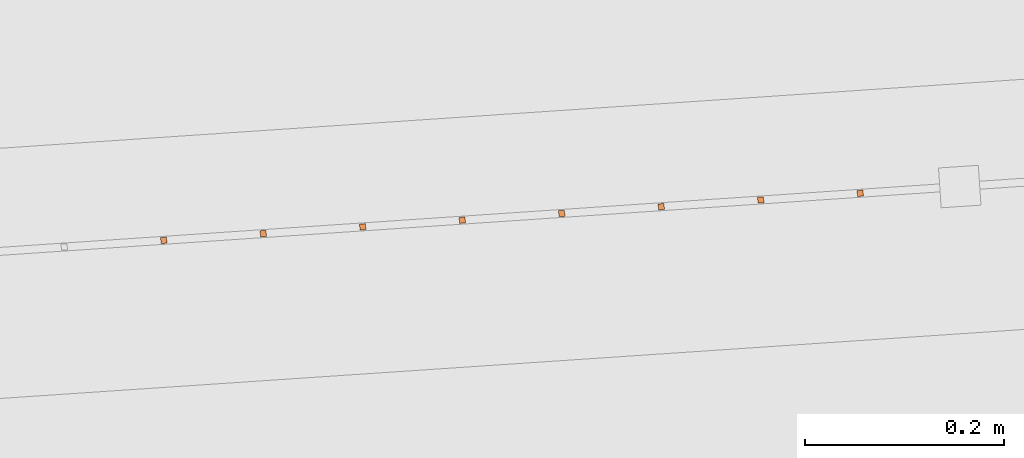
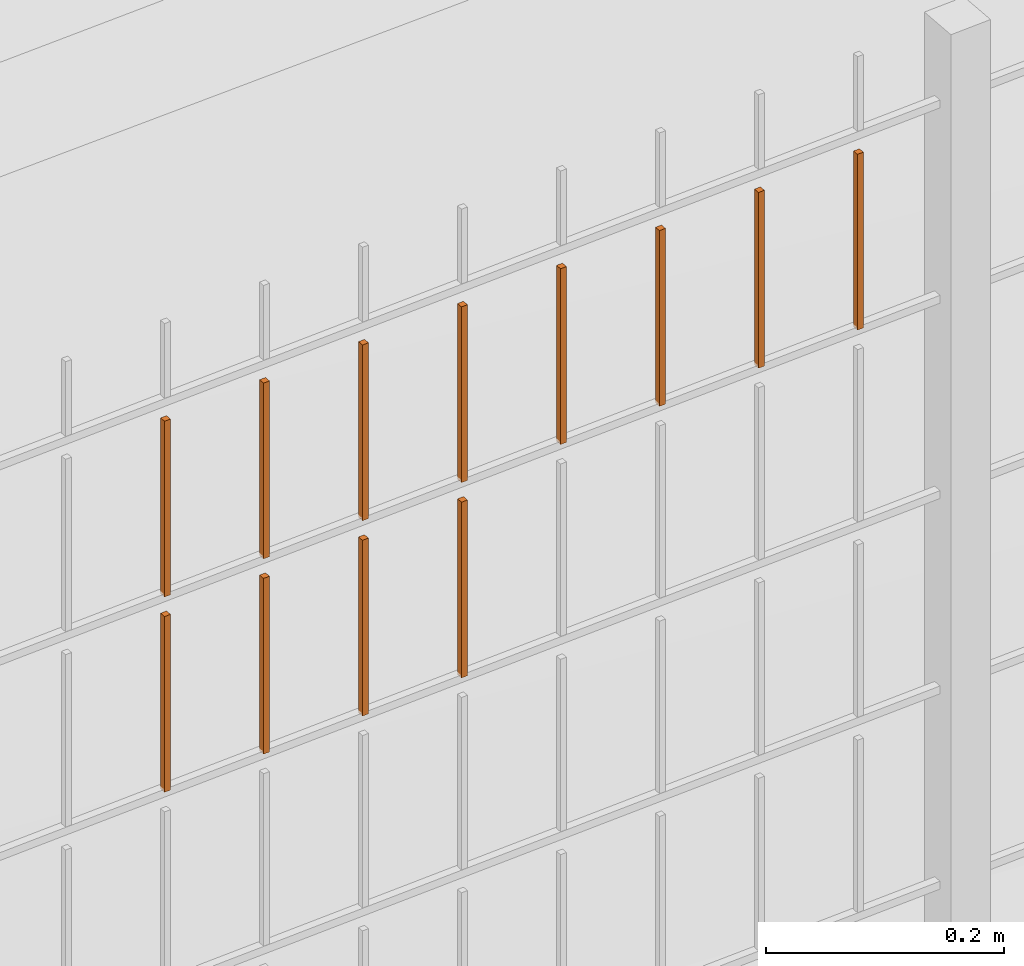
# One storey, part 379 of 1809: 12 proxies, 1 element without a shape of its own.
"""IFC2X3 building model written with IfcOpenShell, lengths in millimetres."""

from ifc_helpers import new_model, entity, si_unit, converted_unit, derived_unit, money_unit, direction, frame, origin_with_axes, place, context, subcontext, project, spatial, faceted_brep, source, transform, mapped, material, type_object, element, aggregate, save


model = new_model("IFC2X3")

# Units and contexts
model_context = context("Model", 3, precision=0.01, world=origin_with_axes(), true_north=direction((0.0, 1.0)))
body_context = subcontext(model_context, "Body", "Model", "MODEL_VIEW")
ifc_project = project(units=[si_unit("LENGTHUNIT", "METRE", prefix="MILLI"), si_unit("AREAUNIT", "SQUARE_METRE"), si_unit("VOLUMEUNIT", "CUBIC_METRE"), converted_unit("PLANEANGLEUNIT", "DEGREE", entity("IfcPlaneAngleMeasure", 0.0174532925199), si_unit("PLANEANGLEUNIT", "RADIAN"), dimensions=[0, 0, 0, 0, 0, 0, 0]), si_unit("SOLIDANGLEUNIT", "STERADIAN"), money_unit("EUR"), converted_unit("TIMEUNIT", "Year", entity("IfcTimeMeasure", 31556926.0), si_unit("TIMEUNIT", "SECOND"), dimensions=[0, 0, 1, 0, 0, 0, 0]), si_unit("MASSUNIT", "GRAM", prefix="KILO"), si_unit("THERMODYNAMICTEMPERATUREUNIT", "DEGREE_CELSIUS"), si_unit("LUMINOUSINTENSITYUNIT", "LUMEN"), si_unit("ENERGYUNIT", "JOULE", prefix="MEGA"), derived_unit("THERMALCONDUCTANCEUNIT", [(si_unit("POWERUNIT", "WATT"), 1), (si_unit("LENGTHUNIT", "METRE"), -1), (si_unit("THERMODYNAMICTEMPERATUREUNIT", "KELVIN"), -1)]), derived_unit("SPECIFICHEATCAPACITYUNIT", [(si_unit("ENERGYUNIT", "JOULE"), 1), (si_unit("MASSUNIT", "GRAM", prefix="KILO"), -1), (si_unit("THERMODYNAMICTEMPERATUREUNIT", "KELVIN"), -1)]), derived_unit("MASSDENSITYUNIT", [(si_unit("MASSUNIT", "GRAM", prefix="KILO"), 1), (si_unit("VOLUMEUNIT", "CUBIC_METRE"), -1)])], contexts=[model_context])

# Site, building, storey
site_placement = place(None, origin_with_axes())
site = spatial("IfcSite", under=ifc_project, at=site_placement, Name="Politse- ja Piirivalveameti ning Päästeameti ühishoone", CompositionType="ELEMENT")
building_placement = place(site_placement, origin_with_axes())
building = spatial("IfcBuilding", under=site, at=building_placement, Name="Politse- ja Piirivalveameti ning Päästeameti ühishoone", CompositionType="ELEMENT")
storey_placement = place(building_placement, origin_with_axes())
storey = spatial("IfcBuildingStorey", under=building, at=storey_placement, Name="Esimene korrus", CompositionType="ELEMENT", Elevation=0.0)

# Proxies
building_element_proxy_type_1 = type_object("IfcBuildingElementProxyType", Name="Railing Type", PredefinedType="NOTDEFINED")
proxy_1_placement = place(storey_placement, frame((89252.001212, -29183.4766571, 203.661247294), z_axis=(0.0, 0.0, 1.0), x_axis=(1.0, 0.0, 0.0)))
proxy_1 = element("IfcBuildingElementProxy", 1, at=proxy_1_placement, inside=storey, type_object=building_element_proxy_type_1, Name="PIIRDEAED")
ifc_material = material(Name="ET-03_Raud")
building_element_proxy_type_2 = type_object("IfcBuildingElementProxyType", Name="IfcBuildingElementProxy", PredefinedType="NOTDEFINED")
shared_shape_1 = source(origin_with_axes(), body_context, "Body", "Brep", [
    faceted_brep([(3.0, 3.0, -0.000752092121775), (-3.0, 3.0, -0.000752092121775), (-3.0, 3.0, 179.99926046), (3.0, 3.0, 179.99926046), (3.0, -3.0, 0.000752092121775), (-3.0, -3.0, 0.000752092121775), (-3.0, -3.0, 180.000764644), (3.0, -3.0, 180.000764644)], [[[0, 1, 2, 3]], [[0, 4, 5, 1]], [[1, 5, 6, 2]], [[3, 2, 6, 7]], [[4, 0, 3, 7]], [[5, 4, 7, 6]]]),
])
proxy_2_placement = place(proxy_1_placement, frame((-17885.9321864, -18505.9019817, 1822.74021191), z_axis=(0.0, 0.0, 1.0), x_axis=(1.0, 0.0, 0.0)))
proxy_2 = element("IfcBuildingElementProxy", 2, at=proxy_2_placement, type_object=building_element_proxy_type_2, material=ifc_material, Name="BALUSTER - 001", context=body_context, shape_type="MappedRepresentation", body=[
    mapped(shared_shape_1, transform((0.0, 0.0, 0.0), x_axis=(-0.0673926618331, 0.997726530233, 0.0), y_axis=(-0.997726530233, -0.0673926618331, 0.0), z_axis=(0.0, 0.0, 1.0))),
])
shared_shape_2 = source(origin_with_axes(), body_context, "Body", "Brep", [
    faceted_brep([(3.0, 3.0, -0.000752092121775), (-3.0, 3.0, -0.000752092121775), (-3.0, 3.0, 179.99926046), (3.0, 3.0, 179.99926046), (3.0, -3.0, 0.000752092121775), (-3.0, -3.0, 0.000752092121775), (-3.0, -3.0, 180.000764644), (3.0, -3.0, 180.000764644)], [[[0, 1, 2, 3]], [[0, 4, 5, 1]], [[1, 5, 6, 2]], [[3, 2, 6, 7]], [[4, 0, 3, 7]], [[5, 4, 7, 6]]]),
])
proxy_3_placement = place(proxy_1_placement, frame((-17985.7048394, -18512.6412479, 1822.71514218), z_axis=(0.0, 0.0, 1.0), x_axis=(1.0, 0.0, 0.0)))
proxy_3 = element("IfcBuildingElementProxy", 3, at=proxy_3_placement, type_object=building_element_proxy_type_2, material=ifc_material, Name="BALUSTER - 001", context=body_context, shape_type="MappedRepresentation", body=[
    mapped(shared_shape_2, transform((0.0, 0.0, 0.0), x_axis=(-0.0673926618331, 0.997726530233, 0.0), y_axis=(-0.997726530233, -0.0673926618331, 0.0), z_axis=(0.0, 0.0, 1.0))),
])
shared_shape_3 = source(origin_with_axes(), body_context, "Body", "Brep", [
    faceted_brep([(3.0, 3.0, -0.000752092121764), (-3.0, 3.0, -0.000752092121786), (-3.0, 3.0, 179.99926046), (3.0, 3.0, 179.99926046), (3.0, -3.0, 0.000752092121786), (-3.0, -3.0, 0.000752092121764), (-3.0, -3.0, 180.000764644), (3.0, -3.0, 180.000764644)], [[[0, 1, 2, 3]], [[0, 4, 5, 1]], [[1, 5, 6, 2]], [[3, 2, 6, 7]], [[4, 0, 3, 7]], [[5, 4, 7, 6]]]),
])
proxy_4_placement = place(proxy_1_placement, frame((-18085.4774924, -18519.3805141, 1822.69007244), z_axis=(0.0, 0.0, 1.0), x_axis=(1.0, 0.0, 0.0)))
proxy_4 = element("IfcBuildingElementProxy", 4, at=proxy_4_placement, type_object=building_element_proxy_type_2, material=ifc_material, Name="BALUSTER - 001", context=body_context, shape_type="MappedRepresentation", body=[
    mapped(shared_shape_3, transform((0.0, 0.0, 0.0), x_axis=(-0.0673926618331, 0.997726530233, 0.0), y_axis=(-0.997726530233, -0.0673926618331, 0.0), z_axis=(0.0, 0.0, 1.0))),
])
shared_shape_4 = source(origin_with_axes(), body_context, "Body", "Brep", [
    faceted_brep([(3.0, 3.0, -0.000752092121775), (-3.0, 3.0, -0.000752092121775), (-3.0, 3.0, 179.99926046), (3.0, 3.0, 179.99926046), (3.0, -3.0, 0.000752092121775), (-3.0, -3.0, 0.000752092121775), (-3.0, -3.0, 180.000764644), (3.0, -3.0, 180.000764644)], [[[0, 1, 2, 3]], [[0, 4, 5, 1]], [[1, 5, 6, 2]], [[3, 2, 6, 7]], [[4, 0, 3, 7]], [[5, 4, 7, 6]]]),
])
proxy_5_placement = place(proxy_1_placement, frame((-17985.7048394, -18512.6412479, 1622.71514218), z_axis=(0.0, 0.0, 1.0), x_axis=(1.0, 0.0, 0.0)))
proxy_5 = element("IfcBuildingElementProxy", 5, at=proxy_5_placement, type_object=building_element_proxy_type_2, material=ifc_material, Name="BALUSTER - 001", context=body_context, shape_type="MappedRepresentation", body=[
    mapped(shared_shape_4, transform((0.0, 0.0, 0.0), x_axis=(-0.0673926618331, 0.997726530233, 0.0), y_axis=(-0.997726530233, -0.0673926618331, 0.0), z_axis=(0.0, 0.0, 1.0))),
])
shared_shape_5 = source(origin_with_axes(), body_context, "Body", "Brep", [
    faceted_brep([(3.0, 3.0, -0.000752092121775), (-3.0, 3.0, -0.000752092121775), (-3.0, 3.0, 179.99926046), (3.0, 3.0, 179.99926046), (3.0, -3.0, 0.000752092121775), (-3.0, -3.0, 0.000752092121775), (-3.0, -3.0, 180.000764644), (3.0, -3.0, 180.000764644)], [[[0, 1, 2, 3]], [[0, 4, 5, 1]], [[1, 5, 6, 2]], [[3, 2, 6, 7]], [[4, 0, 3, 7]], [[5, 4, 7, 6]]]),
])
proxy_6_placement = place(proxy_1_placement, frame((-17786.1595333, -18499.1627155, 1822.76528165), z_axis=(0.0, 0.0, 1.0), x_axis=(1.0, 0.0, 0.0)))
proxy_6 = element("IfcBuildingElementProxy", 6, at=proxy_6_placement, type_object=building_element_proxy_type_2, material=ifc_material, Name="BALUSTER - 001", context=body_context, shape_type="MappedRepresentation", body=[
    mapped(shared_shape_5, transform((0.0, 0.0, 0.0), x_axis=(-0.0673926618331, 0.997726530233, 0.0), y_axis=(-0.997726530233, -0.0673926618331, 0.0), z_axis=(0.0, 0.0, 1.0))),
])
shared_shape_6 = source(origin_with_axes(), body_context, "Body", "Brep", [
    faceted_brep([(3.0, 3.0, -0.000752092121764), (-3.0, 3.0, -0.000752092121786), (-3.0, 3.0, 179.99926046), (3.0, 3.0, 179.99926046), (3.0, -3.0, 0.000752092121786), (-3.0, -3.0, 0.000752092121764), (-3.0, -3.0, 180.000764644), (3.0, -3.0, 180.000764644)], [[[0, 1, 2, 3]], [[0, 4, 5, 1]], [[1, 5, 6, 2]], [[3, 2, 6, 7]], [[4, 0, 3, 7]], [[5, 4, 7, 6]]]),
])
proxy_7_placement = place(proxy_1_placement, frame((-17586.6142273, -18485.6841832, 1822.81542113), z_axis=(0.0, 0.0, 1.0), x_axis=(1.0, 0.0, 0.0)))
proxy_7 = element("IfcBuildingElementProxy", 7, at=proxy_7_placement, type_object=building_element_proxy_type_2, material=ifc_material, Name="BALUSTER - 001", context=body_context, shape_type="MappedRepresentation", body=[
    mapped(shared_shape_6, transform((0.0, 0.0, 0.0), x_axis=(-0.0673926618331, 0.997726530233, 0.0), y_axis=(-0.997726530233, -0.0673926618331, 0.0), z_axis=(0.0, 0.0, 1.0))),
])
shared_shape_7 = source(origin_with_axes(), body_context, "Body", "Brep", [
    faceted_brep([(3.0, 3.0, -0.000752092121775), (-3.0, 3.0, -0.000752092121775), (-3.0, 3.0, 179.99926046), (3.0, 3.0, 179.99926046), (3.0, -3.0, 0.000752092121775), (-3.0, -3.0, 0.000752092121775), (-3.0, -3.0, 180.000764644), (3.0, -3.0, 180.000764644)], [[[0, 1, 2, 3]], [[0, 4, 5, 1]], [[1, 5, 6, 2]], [[3, 2, 6, 7]], [[4, 0, 3, 7]], [[5, 4, 7, 6]]]),
])
proxy_8_placement = place(proxy_1_placement, frame((-17885.9321864, -18505.9019817, 1622.74021191), z_axis=(0.0, 0.0, 1.0), x_axis=(1.0, 0.0, 0.0)))
proxy_8 = element("IfcBuildingElementProxy", 8, at=proxy_8_placement, type_object=building_element_proxy_type_2, material=ifc_material, Name="BALUSTER - 001", context=body_context, shape_type="MappedRepresentation", body=[
    mapped(shared_shape_7, transform((0.0, 0.0, 0.0), x_axis=(-0.0673926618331, 0.997726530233, 0.0), y_axis=(-0.997726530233, -0.0673926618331, 0.0), z_axis=(0.0, 0.0, 1.0))),
])
shared_shape_8 = source(origin_with_axes(), body_context, "Body", "Brep", [
    faceted_brep([(3.0, 3.0, -0.000752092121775), (-3.0, 3.0, -0.000752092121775), (-3.0, 3.0, 179.99926046), (3.0, 3.0, 179.99926046), (3.0, -3.0, 0.000752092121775), (-3.0, -3.0, 0.000752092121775), (-3.0, -3.0, 180.000764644), (3.0, -3.0, 180.000764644)], [[[0, 1, 2, 3]], [[0, 4, 5, 1]], [[1, 5, 6, 2]], [[3, 2, 6, 7]], [[4, 0, 3, 7]], [[5, 4, 7, 6]]]),
])
proxy_9_placement = place(proxy_1_placement, frame((-17387.0689212, -18472.2056508, 1822.8655606), z_axis=(0.0, 0.0, 1.0), x_axis=(1.0, 0.0, 0.0)))
proxy_9 = element("IfcBuildingElementProxy", 9, at=proxy_9_placement, type_object=building_element_proxy_type_2, material=ifc_material, Name="BALUSTER - 001", context=body_context, shape_type="MappedRepresentation", body=[
    mapped(shared_shape_8, transform((0.0, 0.0, 0.0), x_axis=(-0.0673926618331, 0.997726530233, 0.0), y_axis=(-0.997726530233, -0.0673926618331, 0.0), z_axis=(0.0, 0.0, 1.0))),
])
shared_shape_9 = source(origin_with_axes(), body_context, "Body", "Brep", [
    faceted_brep([(3.0, 3.0, -0.000752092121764), (-3.0, 3.0, -0.000752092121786), (-3.0, 3.0, 179.99926046), (3.0, 3.0, 179.99926046), (3.0, -3.0, 0.000752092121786), (-3.0, -3.0, 0.000752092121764), (-3.0, -3.0, 180.000764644), (3.0, -3.0, 180.000764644)], [[[0, 1, 2, 3]], [[0, 4, 5, 1]], [[1, 5, 6, 2]], [[3, 2, 6, 7]], [[4, 0, 3, 7]], [[5, 4, 7, 6]]]),
])
proxy_10_placement = place(proxy_1_placement, frame((-17686.3868803, -18492.4234494, 1822.79035139), z_axis=(0.0, 0.0, 1.0), x_axis=(1.0, 0.0, 0.0)))
proxy_10 = element("IfcBuildingElementProxy", 10, at=proxy_10_placement, type_object=building_element_proxy_type_2, material=ifc_material, Name="BALUSTER - 001", context=body_context, shape_type="MappedRepresentation", body=[
    mapped(shared_shape_9, transform((0.0, 0.0, 0.0), x_axis=(-0.0673926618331, 0.997726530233, 0.0), y_axis=(-0.997726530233, -0.0673926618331, 0.0), z_axis=(0.0, 0.0, 1.0))),
])
shared_shape_10 = source(origin_with_axes(), body_context, "Body", "Brep", [
    faceted_brep([(3.0, 3.0, -0.000752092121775), (-3.0, 3.0, -0.000752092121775), (-3.0, 3.0, 179.99926046), (3.0, 3.0, 179.99926046), (3.0, -3.0, 0.000752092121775), (-3.0, -3.0, 0.000752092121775), (-3.0, -3.0, 180.000764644), (3.0, -3.0, 180.000764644)], [[[0, 1, 2, 3]], [[0, 4, 5, 1]], [[1, 5, 6, 2]], [[3, 2, 6, 7]], [[4, 0, 3, 7]], [[5, 4, 7, 6]]]),
])
proxy_11_placement = place(proxy_1_placement, frame((-17786.1595333, -18499.1627155, 1622.76528165), z_axis=(0.0, 0.0, 1.0), x_axis=(1.0, 0.0, 0.0)))
proxy_11 = element("IfcBuildingElementProxy", 11, at=proxy_11_placement, type_object=building_element_proxy_type_2, material=ifc_material, Name="BALUSTER - 001", context=body_context, shape_type="MappedRepresentation", body=[
    mapped(shared_shape_10, transform((0.0, 0.0, 0.0), x_axis=(-0.0673926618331, 0.997726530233, 0.0), y_axis=(-0.997726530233, -0.0673926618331, 0.0), z_axis=(0.0, 0.0, 1.0))),
])
shared_shape_11 = source(origin_with_axes(), body_context, "Body", "Brep", [
    faceted_brep([(3.0, 3.0, -0.000752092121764), (-3.0, 3.0, -0.000752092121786), (-3.0, 3.0, 179.99926046), (3.0, 3.0, 179.99926046), (3.0, -3.0, 0.000752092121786), (-3.0, -3.0, 0.000752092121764), (-3.0, -3.0, 180.000764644), (3.0, -3.0, 180.000764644)], [[[0, 1, 2, 3]], [[0, 4, 5, 1]], [[1, 5, 6, 2]], [[3, 2, 6, 7]], [[4, 0, 3, 7]], [[5, 4, 7, 6]]]),
])
proxy_12_placement = place(proxy_1_placement, frame((-18085.4774924, -18519.3805141, 1622.69007244), z_axis=(0.0, 0.0, 1.0), x_axis=(1.0, 0.0, 0.0)))
proxy_12 = element("IfcBuildingElementProxy", 12, at=proxy_12_placement, type_object=building_element_proxy_type_2, material=ifc_material, Name="BALUSTER - 001", context=body_context, shape_type="MappedRepresentation", body=[
    mapped(shared_shape_11, transform((0.0, 0.0, 0.0), x_axis=(-0.0673926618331, 0.997726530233, 0.0), y_axis=(-0.997726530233, -0.0673926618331, 0.0), z_axis=(0.0, 0.0, 1.0))),
])
shared_shape_12 = source(origin_with_axes(), body_context, "Body", "Brep", [
    faceted_brep([(3.0, 3.0, -0.000752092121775), (-3.0, 3.0, -0.000752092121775), (-3.0, 3.0, 179.99926046), (3.0, 3.0, 179.99926046), (3.0, -3.0, 0.000752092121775), (-3.0, -3.0, 0.000752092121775), (-3.0, -3.0, 180.000764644), (3.0, -3.0, 180.000764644)], [[[0, 1, 2, 3]], [[0, 4, 5, 1]], [[1, 5, 6, 2]], [[3, 2, 6, 7]], [[4, 0, 3, 7]], [[5, 4, 7, 6]]]),
])
proxy_13_placement = place(proxy_1_placement, frame((-17486.8415743, -18478.944917, 1822.84049086), z_axis=(0.0, 0.0, 1.0), x_axis=(1.0, 0.0, 0.0)))
proxy_13 = element("IfcBuildingElementProxy", 13, at=proxy_13_placement, type_object=building_element_proxy_type_2, material=ifc_material, Name="BALUSTER - 001", context=body_context, shape_type="MappedRepresentation", body=[
    mapped(shared_shape_12, transform((0.0, 0.0, 0.0), x_axis=(-0.0673926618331, 0.997726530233, 0.0), y_axis=(-0.997726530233, -0.0673926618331, 0.0), z_axis=(0.0, 0.0, 1.0))),
])
aggregate(proxy_1, [proxy_11, proxy_8, proxy_5, proxy_12, proxy_9, proxy_13, proxy_7, proxy_10, proxy_6, proxy_2, proxy_3, proxy_4])

save(model, "model.ifc")
